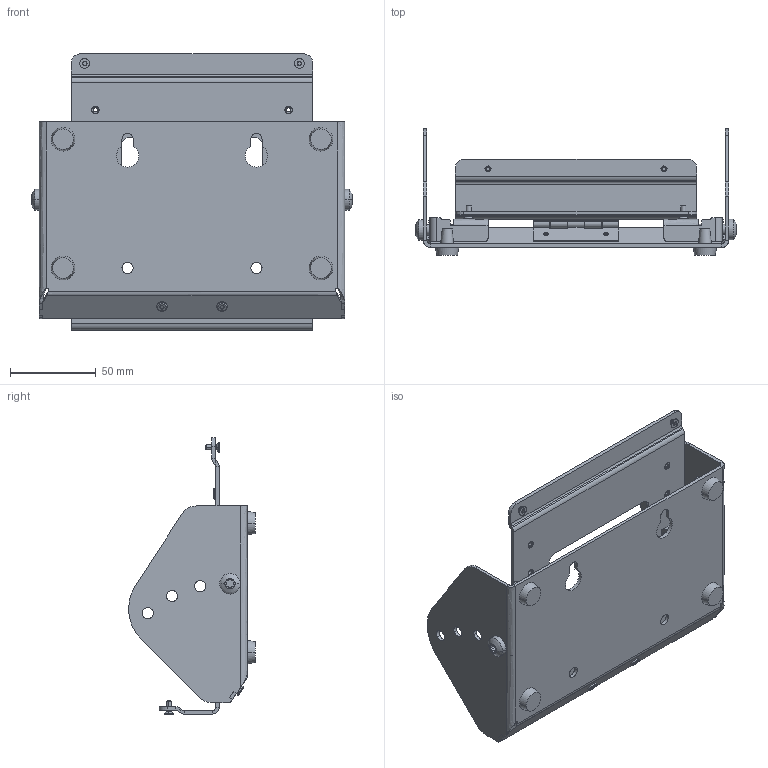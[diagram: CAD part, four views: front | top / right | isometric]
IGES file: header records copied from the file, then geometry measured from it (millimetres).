
Start section:  PTC IGES file: 6158122320.igs
Global section: file name: 6158122320.igs; native system: Creo Parametric by PTC Inc.; preprocessor: 2015200; author: greextsd; organization: Unknown; date: 20150928.105623; units: millimetre
Bounding box: 186.8 x 73.67 x 160.7 mm (x, y, z)
Volume: 117649.5 mm3; surface area: 119915.1 mm2
Topology: 5 solids, 5 shells, 1021 faces, 2454 edges, 1512 vertices
Faces by surface type: revolution 580, bspline 441
